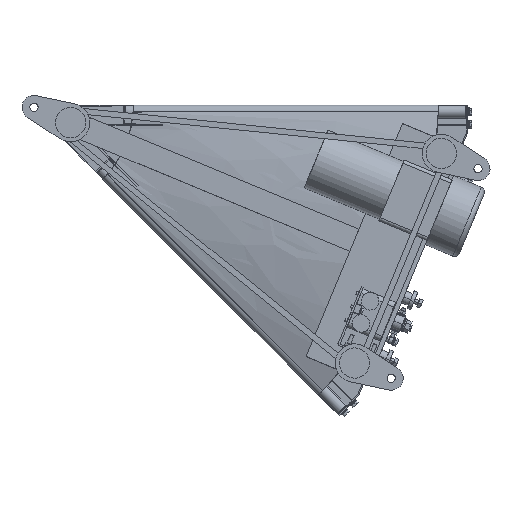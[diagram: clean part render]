
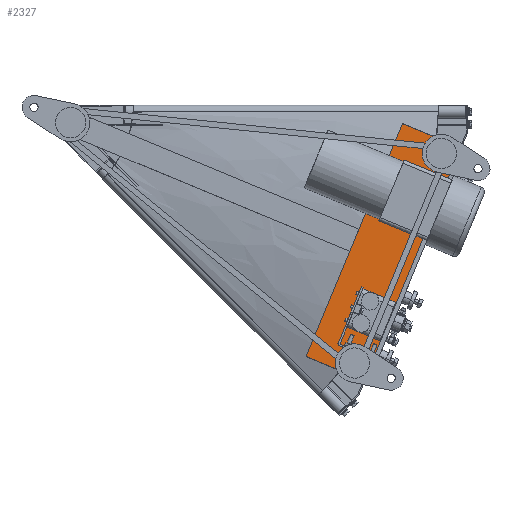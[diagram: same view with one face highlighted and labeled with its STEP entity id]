
A CAD part, front view. The second image highlights one B-rep face of the part: STEP entity #2327.
In plain terms, the highlighted planar face has unit normal (0, -1, 0).
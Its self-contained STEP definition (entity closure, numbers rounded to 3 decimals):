
#2327=ADVANCED_FACE('',(#5987),#5986,.F.);
#5986=PLANE('',#16359);
#5987=FACE_OUTER_BOUND('',#16360,.T.);
#16356=CARTESIAN_POINT('',(426.131,-167.5,-435.256));
#16357=DIRECTION('',(0.,1.,0.));
#16358=DIRECTION('',(0.078,0.,0.997));
#16359=AXIS2_PLACEMENT_3D('',#16356,#16357,#16358);
#16360=EDGE_LOOP('',(#21772,#21773,#21774,#21775,#21776,#21777));
#21772=ORIENTED_EDGE('',*,*,#25751,.F.);
#21773=ORIENTED_EDGE('',*,*,#25740,.F.);
#21774=ORIENTED_EDGE('',*,*,#25749,.F.);
#21775=ORIENTED_EDGE('',*,*,#25757,.F.);
#21776=ORIENTED_EDGE('',*,*,#25755,.F.);
#21777=ORIENTED_EDGE('',*,*,#25753,.F.);
#25740=EDGE_CURVE('',#31964,#31965,#31966,.T.);
#25749=EDGE_CURVE('',#32026,#31964,#32027,.T.);
#25751=EDGE_CURVE('',#31965,#32039,#32040,.T.);
#25753=EDGE_CURVE('',#32039,#32052,#32053,.T.);
#25755=EDGE_CURVE('',#32052,#32065,#32066,.T.);
#25757=EDGE_CURVE('',#32065,#32026,#32078,.T.);
#31964=VERTEX_POINT('',#46744);
#31965=VERTEX_POINT('',#46745);
#31966=LINE('',#46746,#46747);
#32026=VERTEX_POINT('',#46779);
#32027=LINE('',#46780,#46781);
#32039=VERTEX_POINT('',#46786);
#32040=LINE('',#46787,#46788);
#32052=VERTEX_POINT('',#46793);
#32053=LINE('',#46794,#46795);
#32065=VERTEX_POINT('',#46800);
#32066=LINE('',#46801,#46802);
#32078=LINE('',#46807,#46808);
#46744=CARTESIAN_POINT('',(592.14,-167.5,-28.794));
#46745=CARTESIAN_POINT('',(675.289,-167.5,-63.235));
#46746=CARTESIAN_POINT('',(592.14,-167.5,-28.794));
#46747=VECTOR('',#46748,90.);
#46748=DIRECTION('',(0.924,0.,-0.383));
#46779=CARTESIAN_POINT('',(439.067,-167.5,-398.346));
#46780=CARTESIAN_POINT('',(439.067,-167.5,-398.346));
#46781=VECTOR('',#46782,400.);
#46782=DIRECTION('',(0.383,0.,0.924));
#46786=CARTESIAN_POINT('',(680.701,-167.5,-76.301));
#46787=CARTESIAN_POINT('',(675.289,-167.5,-63.235));
#46788=VECTOR('',#46789,14.142);
#46789=DIRECTION('',(0.383,0.,-0.924));
#46793=CARTESIAN_POINT('',(535.281,-167.5,-427.375));
#46794=CARTESIAN_POINT('',(680.701,-167.5,-76.301));
#46795=VECTOR('',#46796,380.);
#46796=DIRECTION('',(-0.383,0.,-0.924));
#46800=CARTESIAN_POINT('',(522.216,-167.5,-432.787));
#46801=CARTESIAN_POINT('',(535.281,-167.5,-427.375));
#46802=VECTOR('',#46803,14.142);
#46803=DIRECTION('',(-0.924,0.,-0.383));
#46807=CARTESIAN_POINT('',(522.216,-167.5,-432.787));
#46808=VECTOR('',#46809,90.);
#46809=DIRECTION('',(-0.924,0.,0.383));
